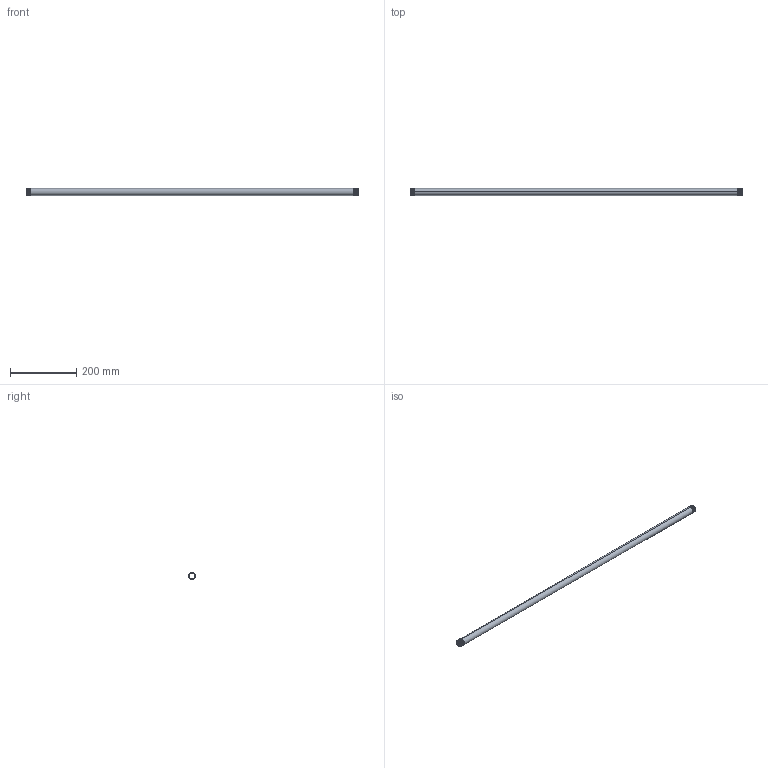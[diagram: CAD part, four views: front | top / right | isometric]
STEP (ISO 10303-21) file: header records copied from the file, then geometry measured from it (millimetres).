
FILE_DESCRIPTION (( 'STEP AP203' ), '1' );
FILE_NAME ('3D_R210_1-2x1000_17191615.STEP', '2024-08-16T14:50:26', ( '' ), ( '' ), 'SwSTEP 2.0', 'SolidWorks 2024', '' );
FILE_SCHEMA (( 'CONFIG_CONTROL_DESIGN' ));
Length unit declared in the file: millimetre
Products named in the file (1): 3D_R210_1-2x1000_17191615
Bounding box: 1000 x 21.28 x 21.3 mm (x, y, z)
Volume: 120549.3 mm3; surface area: 122285.3 mm2
Topology: 1 solids, 1 shells, 72 faces, 202 edges, 132 vertices
Faces by surface type: cone 58, bspline 6, cylinder 4, plane 4
Entity records: 11263 total; most frequent: CARTESIAN_POINT 9585, ORIENTED_EDGE 404, DIRECTION 230, EDGE_CURVE 202, VERTEX_POINT 132, B_SPLINE_CURVE_WITH_KNOTS 112, AXIS2_PLACEMENT_3D 81, EDGE_LOOP 74
